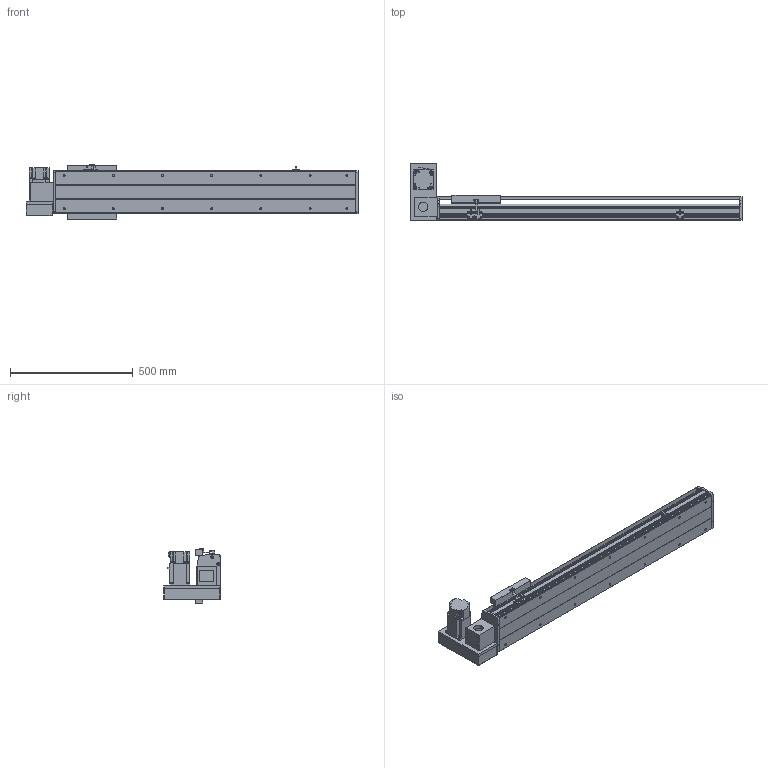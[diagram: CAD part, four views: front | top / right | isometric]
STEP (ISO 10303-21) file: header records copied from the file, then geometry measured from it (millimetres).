
FILE_DESCRIPTION(/* description */ ('STEP AP214'),/* implementation_level */ '2;1');
FILE_NAME(/* name */ 'PBS200-P40-S850-LU-T75-C1-N(0)',/* time_stamp */ '2022-06-11T08:59:29+02:00',/* author */ ('License CC BY-ND 4.0'),/* organization */ ('CADENAS'),/* preprocessor_version */ 'ST-DEVELOPER v18.102',/* originating_system */ 'PARTsolutions',/* authorisation */ ' ');
FILE_SCHEMA (('AUTOMOTIVE_DESIGN {1 0 10303 214 3 1 1}'));
Length unit declared in the file: millimetre
Products named in the file (7): PBS200-P40-S850-LU-T75-C1-N(0); PBS200_sensor; PBS200_plant; PBS200_sliser; T75-p1; PBS200T-LU_motors; PBS200-S850()_body
Assembly tree (8 placements, depth 2):
  PBS200-P40-S850-LU-T75-C1-N(0)
    PBS200_sensor  x3
    PBS200_plant
    PBS200_sliser
    T75-p1
    PBS200T-LU_motors
    PBS200-S850()_body
Bounding box: 1350 x 231 x 221 mm (x, y, z)
Volume: 10300738.2 mm3; surface area: 1671800.8 mm2
Topology: 8 solids, 8 shells, 914 faces, 2364 edges, 1542 vertices
Faces by surface type: plane 572, cylinder 296, cone 46
Full cylindrical faces by diameter (mm): 2.459 x6, 3.242 x4, 4.5 x6, 4.917 x4, 5 x6, 6 x7, 6.6 x8, 6.647 x18, 8 x6, 10 x4, 12 x8, 38 x2, 40 x1, 70 x1
Entity records: 24461 total; most frequent: DIRECTION 4303, CARTESIAN_POINT 4174, ORIENTED_EDGE 3970, EDGE_CURVE 1985, AXIS2_PLACEMENT_3D 1495, VERTEX_POINT 1366, LINE 1313, VECTOR 1313
